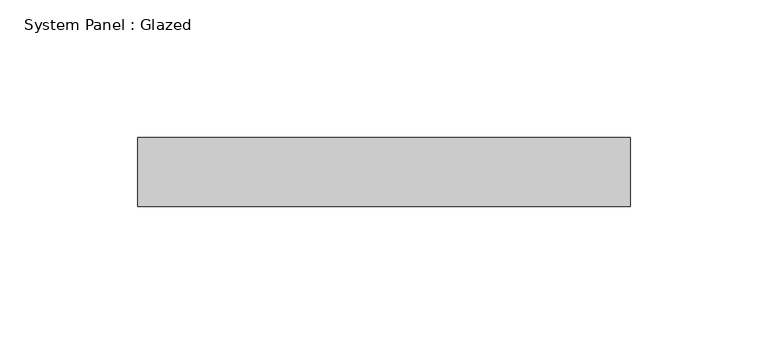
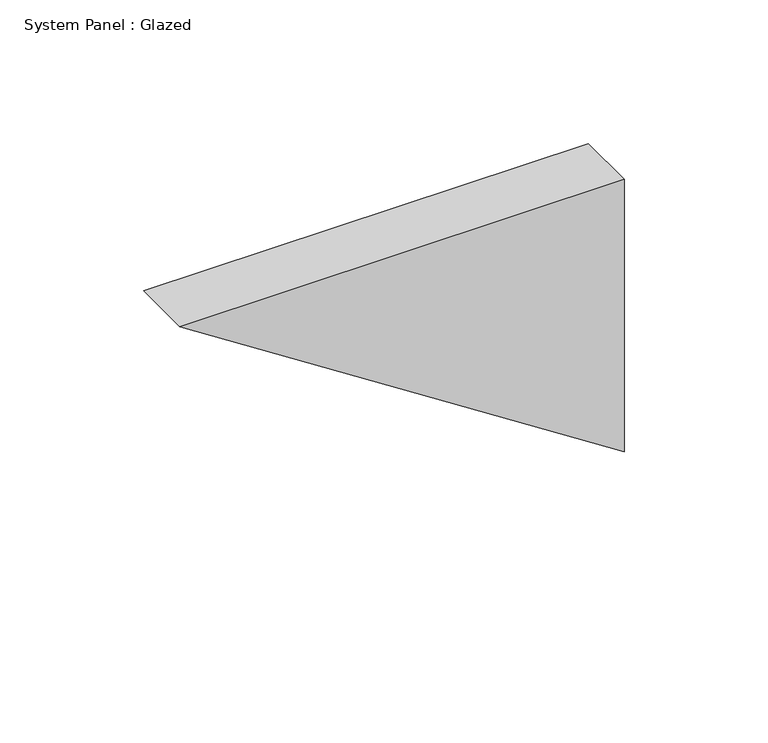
"""IFC4 building model written with IfcOpenShell, lengths in millimetres: plate geometry, System Panel : Glazed."""

from ifc_helpers import new_model, si_unit, frame, origin, place, context, project, spatial, polyline, outline, extrude, source, transform, mapped, element, save


def system_panel_glazed_00255911(model_context):
    return source(origin(), model_context, "Body", "SweptSolid", [
        extrude(outline(polyline([(115.6591515, -89.3595384), (0.0, 89.3595384), (115.6591515, 89.3595384), (115.6591515, -89.3595384)])), frame((0.0, 24.5, 0.0), z_axis=(0.0, 1.0, 0.0), x_axis=(0.0, 0.0, 1.0)), (0.0, 0.0, 1.0), 25.0),
    ])


if __name__ == "__main__":
    model = new_model("IFC4")
    model_context = context("Model", 3, world=origin())
    ifc_project = project(units=[si_unit("LENGTHUNIT", "METRE", prefix="MILLI")], contexts=[model_context])
    site = spatial("IfcSite", under=ifc_project)
    building = spatial("IfcBuilding", under=site)
    placement = place(None, origin())
    system_panel_glazed_shape = system_panel_glazed_00255911(model_context)
    element("IfcPlate", 1, ObjectType="System Panel : Glazed", at=placement, inside=building, context=model_context, shape_type="MappedRepresentation", body=[
        mapped(system_panel_glazed_shape, transform((0.0, 0.0, 0.0), x_axis=(1.0, 0.0, 0.0), y_axis=(0.0, 1.0, 0.0), z_axis=(0.0, 0.0, 1.0))),
    ])
    save(model, "model.ifc")
